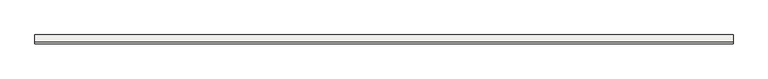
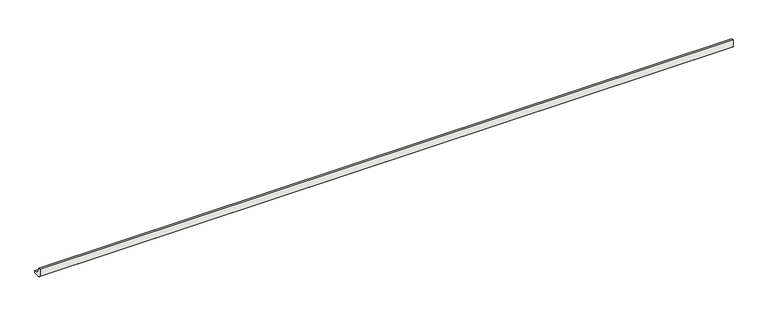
"""IFC4 building model written with IfcOpenShell, lengths in millimetres: slab geometry, ROSA GRES_188 : Pieza 188_Pietro_White_Anti-Slip."""

from ifc_helpers import new_model, si_unit, point, frame, frame_2d, origin, place, context, project, spatial, polyline, circle_curve, trimmed, segment, composite_curve, outline, extrude, source, transform, mapped, element, save


def slab_1abdbbb4(model_context):
    return source(origin(), model_context, "Body", "SweptSolid", [
        extrude(outline(composite_curve([segment(polyline([(0.0, 8.7114978), (0.0, 40.0), (9.9734114, 40.0)]), True, "CONTINUOUS"), segment(trimmed(circle_curve(frame_2d((39.9955547, 39.9955547)), 30.0221435), [point((9.9734114, 40.0))], [point((40.0, 9.9734114))], True, "CARTESIAN"), True, "CONTINUOUS"), segment(polyline([(40.0, 9.9734114), (40.0, 0.0), (8.7114978, 0.0), (0.0, 8.7114978)]), True, "CONTINUOUS")], self_intersect=False)), frame((0.0, 0.0, 0.0), z_axis=(1.0, 0.0, 0.0), x_axis=(0.0, 1.0, 0.0)), (0.0, 0.0, 1.0), 3140.0),
    ])


if __name__ == "__main__":
    model = new_model("IFC4")
    model_context = context("Model", 3, world=origin())
    ifc_project = project(units=[si_unit("LENGTHUNIT", "METRE", prefix="MILLI")], contexts=[model_context])
    site = spatial("IfcSite", under=ifc_project)
    building = spatial("IfcBuilding", under=site)
    placement = place(None, origin())
    slab_shape = slab_1abdbbb4(model_context)
    element("IfcSlab", 1, ObjectType="ROSA GRES_188 : Pieza 188_Pietro_White_Anti-Slip", at=placement, inside=building, context=model_context, shape_type="MappedRepresentation", body=[
        mapped(slab_shape, transform((0.0, 0.0, 0.0), x_axis=(1.0, 0.0, 0.0), y_axis=(0.0, 1.0, 0.0), z_axis=(0.0, 0.0, 1.0))),
    ])
    save(model, "model.ifc")
